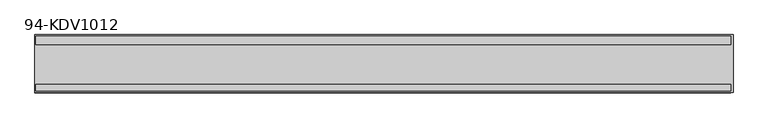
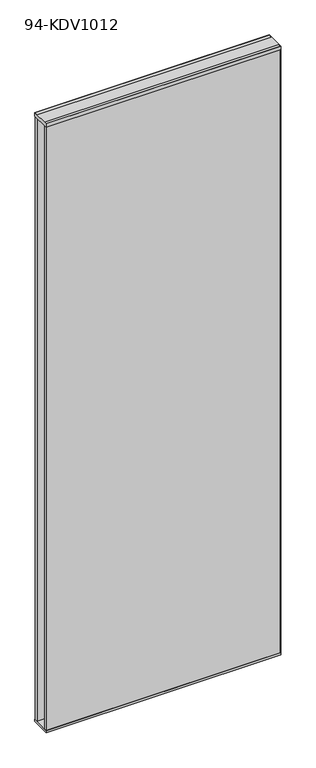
"""IFC4 building model written with IfcOpenShell, lengths in millimetres: plate geometry, PNX_VITRE_DV : 94-KDV1012."""

from ifc_helpers import new_model, si_unit, frame, origin, origin_with_axes, place, context, project, spatial, polyline, outline, extrude, source, transform, mapped, element, save


def plate_94_kdv1012_ecfa1b3f(model_context):
    return source(origin(), model_context, "Body", "SweptSolid", [
        extrude(outline(polyline([(496.8, 39.5), (496.8, 27.5), (-498.8, 27.5), (-498.8, 39.5), (496.8, 39.5)])), origin_with_axes(), (0.0, 0.0, 1.0), 2739.0),
        extrude(outline(polyline([(496.8, -29.5), (496.8, -39.5), (-498.8, -39.5), (-498.8, -29.5), (496.8, -29.5)])), origin_with_axes(), (0.0, 0.0, 1.0), 2739.0),
        extrude(outline(polyline([(2739.0, -499.8), (2724.0, -499.8), (2724.0, 496.8), (9.0, 496.8), (9.0, -499.8), (0.0, -499.8), (0.0, 499.8), (2739.0, 499.8), (2739.0, -499.8)])), frame((0.0, -41.5, 0.0), z_axis=(0.0, 1.0, 0.0), x_axis=(0.0, 0.0, 1.0)), (0.0, 0.0, 1.0), 83.0),
    ])


if __name__ == "__main__":
    model = new_model("IFC4")
    model_context = context("Model", 3, world=origin())
    ifc_project = project(units=[si_unit("LENGTHUNIT", "METRE", prefix="MILLI")], contexts=[model_context])
    site = spatial("IfcSite", under=ifc_project)
    building = spatial("IfcBuilding", under=site)
    placement = place(None, origin())
    plate_94_kdv1012_shape = plate_94_kdv1012_ecfa1b3f(model_context)
    element("IfcPlate", 1, ObjectType="PNX_VITRE_DV : 94-KDV1012", at=placement, inside=building, context=model_context, shape_type="MappedRepresentation", body=[
        mapped(plate_94_kdv1012_shape, transform((0.0, 0.0, 0.0), x_axis=(1.0, 0.0, 0.0), y_axis=(0.0, 1.0, 0.0), z_axis=(0.0, 0.0, 1.0))),
    ])
    save(model, "model.ifc")
